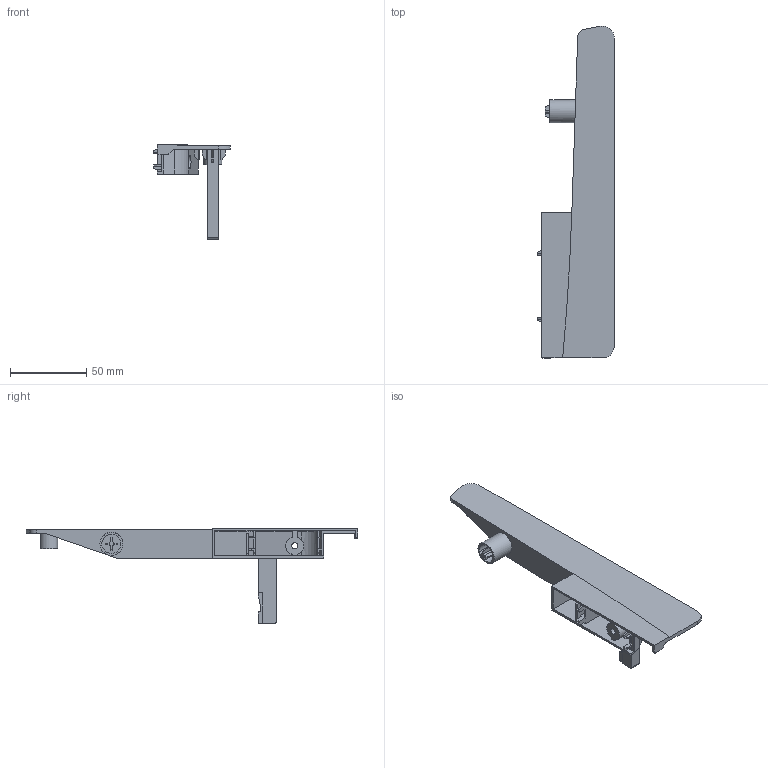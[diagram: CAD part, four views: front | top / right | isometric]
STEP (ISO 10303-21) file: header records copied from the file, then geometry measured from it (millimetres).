
FILE_DESCRIPTION(/* description */ (''),/* implementation_level */ '2;1');
FILE_NAME(/* name */ 'D:\$Workingspace\Designs\Katalog\Cadsoft\GTV Prwadnice II\PB-D(KW)\PB-D(KW)\Akcesoria\Bryły 3D MB akcesoria\PB-D-WEWMOCC-R.stp',/* time_stamp */ '2017-02-09T10:50:11+01:00',/* author */ ('tomaszw'),/* organization */ (''),/* preprocessor_version */ 'ST-DEVELOPER v16.1',/* originating_system */ 'Autodesk Inventor 2016',/* authorisation */ '');
FILE_SCHEMA (('CONFIG_CONTROL_DESIGN'));
Length unit declared in the file: millimetre
Products named in the file (1): PB-D-WEWMOC(A)(B)(C)
Bounding box: 50.5 x 218.15 x 62.1 mm (x, y, z)
Volume: 32729.8 mm3; surface area: 36195 mm2
Topology: 1 solids, 1 shells, 238 faces, 658 edges, 436 vertices
Faces by surface type: plane 207, cylinder 31
Full cylindrical faces by diameter (mm): 4 x1, 9 x1, 12.6 x1, 15.1 x1
Entity records: 7471 total; most frequent: CARTESIAN_POINT 1332, ORIENTED_EDGE 1302, DIRECTION 1193, EDGE_CURVE 651, LINE 585, VECTOR 585, VERTEX_POINT 433, AXIS2_PLACEMENT_3D 304
